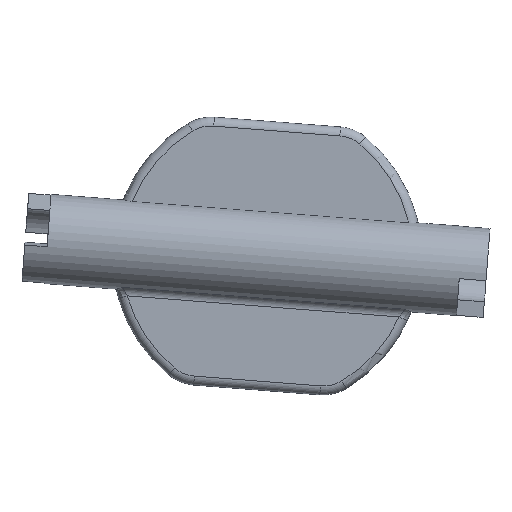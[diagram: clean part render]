
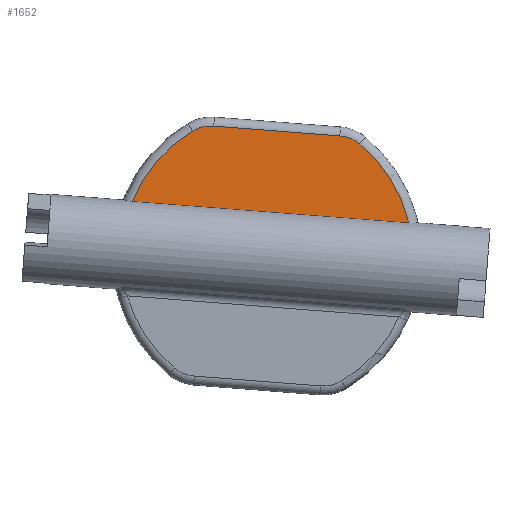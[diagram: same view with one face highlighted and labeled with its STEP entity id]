
A CAD part, front view. The second image highlights one B-rep face of the part: STEP entity #1652.
In plain terms, the highlighted planar face has unit normal (0, -1, 0).
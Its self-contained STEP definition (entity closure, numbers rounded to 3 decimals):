
#1=DIRECTION('',(0.997,0.,-0.077));
#2=VECTOR('',#1,31.036);
#3=CARTESIAN_POINT('',(1212.857,-1.,98.584));
#4=LINE('',#3,#2);
#5=CARTESIAN_POINT('',(1227.95,-1.,92.5));
#6=DIRECTION('',(0.,1.,0.));
#7=DIRECTION('',(-0.927,0.,0.374));
#8=AXIS2_PLACEMENT_3D('',#5,#6,#7);
#10=CARTESIAN_POINT('',(1221.67,-1.,103.044));
#11=DIRECTION('',(0.,1.,0.));
#12=DIRECTION('',(-0.512,0.,0.859));
#13=AXIS2_PLACEMENT_3D('',#10,#11,#12);
#15=DIRECTION('',(0.997,0.,-0.077));
#16=VECTOR('',#15,14.153);
#17=CARTESIAN_POINT('',(1221.979,-1.,107.033));
#18=LINE('',#17,#16);
#19=CARTESIAN_POINT('',(1235.78,-1.,101.95));
#20=DIRECTION('',(0.,1.,0.));
#21=DIRECTION('',(0.077,0.,0.997));
#22=AXIS2_PLACEMENT_3D('',#19,#20,#21);
#24=CARTESIAN_POINT('',(1227.95,-1.,92.5));
#25=DIRECTION('',(0.,1.,0.));
#26=DIRECTION('',(0.638,0.,0.77));
#27=AXIS2_PLACEMENT_3D('',#24,#25,#26);
#1433=CARTESIAN_POINT('',(1212.857,-1.,98.584));
#1434=CARTESIAN_POINT('',(1243.8,-1.,96.185));
#1435=VERTEX_POINT('',#1433);
#1436=VERTEX_POINT('',#1434);
#1625=CARTESIAN_POINT('',(1236.09,-1.,105.938));
#1626=CARTESIAN_POINT('',(1238.332,-1.,105.03));
#1627=VERTEX_POINT('',#1625);
#1628=VERTEX_POINT('',#1626);
#1629=CARTESIAN_POINT('',(1219.623,-1.,106.481));
#1630=VERTEX_POINT('',#1629);
#1631=CARTESIAN_POINT('',(1221.979,-1.,107.033));
#1632=VERTEX_POINT('',#1631);
#1633=CARTESIAN_POINT('',(0.,-1.,0.));
#1634=DIRECTION('',(0.,1.,0.));
#1635=DIRECTION('',(1.,0.,0.));
#1636=AXIS2_PLACEMENT_3D('',#1633,#1634,#1635);
#1637=PLANE('',#1636);
#1639=ORIENTED_EDGE('',*,*,#1638,.F.);
#1641=ORIENTED_EDGE('',*,*,#1640,.T.);
#1643=ORIENTED_EDGE('',*,*,#1642,.T.);
#1645=ORIENTED_EDGE('',*,*,#1644,.T.);
#1647=ORIENTED_EDGE('',*,*,#1646,.T.);
#1649=ORIENTED_EDGE('',*,*,#1648,.T.);
#1650=EDGE_LOOP('',(#1639,#1641,#1643,#1645,#1647,#1649));
#1651=FACE_OUTER_BOUND('',#1650,.F.);
#1652=ADVANCED_FACE('',(#1651),#1637,.F.);
#9=CIRCLE('',#8,16.273);
#14=CIRCLE('',#13,4.);
#23=CIRCLE('',#22,4.);
#28=CIRCLE('',#27,16.273);
#1638=EDGE_CURVE('',#1435,#1436,#4,.T.);
#1640=EDGE_CURVE('',#1435,#1630,#9,.T.);
#1642=EDGE_CURVE('',#1630,#1632,#14,.T.);
#1644=EDGE_CURVE('',#1632,#1627,#18,.T.);
#1646=EDGE_CURVE('',#1627,#1628,#23,.T.);
#1648=EDGE_CURVE('',#1628,#1436,#28,.T.);
